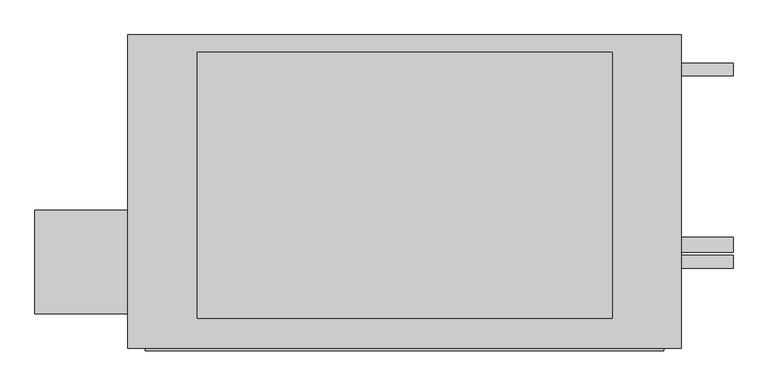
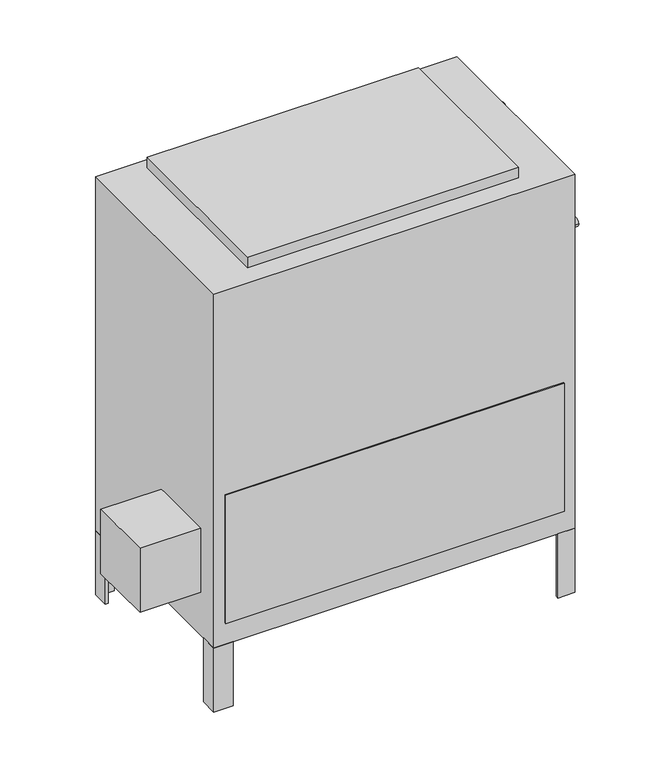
"""IFC4 building model written with IfcOpenShell, lengths in millimetres: proxy geometry, Concealed_High_Capacity_Vertical_Fan_Coil_Unit_-_42DDA_-_CARRIER_-_2-Pipe_Cool-EHeat_RH_2022 : Size 10 - 277v/60Hz/1Ph - 6 Row 7.0kW."""

import ifcopenshell
import ifcopenshell.guid

model = None  # the IFC model being written
_history = None  # IfcOwnerHistory: only IFC2X3 demands one
_inside = {}  # id of a spatial element -> (the spatial element, [elements in it])
_under = {}  # id of a project, library or spatial element -> (it, [spatial elements below it])
_declared = {}  # id of a project -> (the project, [libraries it declares])
_typed = {}  # id of a type object -> (the type object, [elements of that type])
_made_of = {}  # id of a material, layer set ... -> (it, [elements and type objects made of it])


def new_model(schema):
    """Start an empty IFC model of exactly this schema.

    Asked for "IFC4X3", IfcOpenShell would pick the latest addendum, in which some entities
    have other attributes; the version numbers below select the first issue.
    IFC2X3 requires an IfcOwnerHistory on every rooted entity: one is made here for all.
    """
    global model, _history
    if schema == "IFC4X3":
        model = ifcopenshell.file(schema_version=(4, 3, 0, 0))
    else:
        model = ifcopenshell.file(schema=schema)
    _inside.clear()
    _under.clear()
    _declared.clear()
    _typed.clear()
    _made_of.clear()
    _history = None
    if model.schema == "IFC2X3":
        org = make("IfcOrganization", Name="unknown")
        user = make(
            "IfcPersonAndOrganization",
            ThePerson=make("IfcPerson", FamilyName="unknown"),
            TheOrganization=org,
        )
        app = make(
            "IfcApplication",
            ApplicationDeveloper=org,
            Version="unknown",
            ApplicationFullName="unknown",
            ApplicationIdentifier="unknown",
        )
        _history = make(
            "IfcOwnerHistory",
            OwningUser=user,
            OwningApplication=app,
            ChangeAction="ADDED",
            CreationDate=0,
        )
    return model


def make(cls, **values):
    """One entity of the class cls with the attributes given. An attribute that is None is left unset."""
    return model.create_entity(
        cls, **{name: value for name, value in values.items() if value is not None}
    )


def rooted(cls, **values):
    """An entity with a GlobalId (a new one), such as an element, a storey or a relation."""
    return make(cls, GlobalId=ifcopenshell.guid.new(), OwnerHistory=_history, **values)


def si_unit(unit_type, name, prefix=None):
    """IfcSIUnit, for example si_unit("LENGTHUNIT", "METRE", prefix="MILLI")."""
    return make("IfcSIUnit", UnitType=unit_type, Prefix=prefix, Name=name)


def assignment(units):
    """IfcUnitAssignment: the units of a project."""
    return None if units is None else make("IfcUnitAssignment", Units=units)


def point(xyz):
    """IfcCartesianPoint."""
    return None if xyz is None else make("IfcCartesianPoint", Coordinates=xyz)


def direction(xyz):
    """IfcDirection."""
    return None if xyz is None else make("IfcDirection", DirectionRatios=xyz)


def frame(location, z_axis=None, x_axis=None):
    """IfcAxis2Placement3D, a coordinate frame: its origin and axes. An axis left out is left unset."""
    return make(
        "IfcAxis2Placement3D",
        Location=point(location),
        Axis=direction(z_axis),
        RefDirection=direction(x_axis),
    )


def frame_2d(location, x_axis=None):
    """IfcAxis2Placement2D, a coordinate frame in the plane: its origin and x axis."""
    return make(
        "IfcAxis2Placement2D", Location=point(location), RefDirection=direction(x_axis)
    )


def origin():
    """The frame at (0, 0, 0) with its axes left unset."""
    return frame((0.0, 0.0, 0.0))


def origin_with_axes():
    """The frame at (0, 0, 0) with the z axis (0, 0, 1) and the x axis (1, 0, 0) written out."""
    return frame((0.0, 0.0, 0.0), z_axis=(0.0, 0.0, 1.0), x_axis=(1.0, 0.0, 0.0))


def place(relative_to, where):
    """IfcLocalPlacement: puts the frame where relative to a parent placement (None: the world)."""
    return make(
        "IfcLocalPlacement", PlacementRelTo=relative_to, RelativePlacement=where
    )


def context(
    kind, dimensions, precision=None, world=None, true_north=None, identifier=None
):
    """IfcGeometricRepresentationContext, for example the 3D "Model" context."""
    return make(
        "IfcGeometricRepresentationContext",
        ContextIdentifier=identifier,
        ContextType=kind,
        CoordinateSpaceDimension=dimensions,
        Precision=precision,
        WorldCoordinateSystem=world,
        TrueNorth=true_north,
    )


def project(units=None, contexts=None):
    """IfcProject with its units and contexts."""
    return rooted(
        "IfcProject",
        Name="project",
        RepresentationContexts=contexts,
        UnitsInContext=assignment(units),
    )


def spatial(cls, under=None, at=None, **own):
    """A site, building, storey or space (cls), placed at a placement, below another one or the project."""
    s = rooted(cls, ObjectPlacement=at, **own)
    if under is not None:
        _under.setdefault(under.id(), (under, []))[1].append(s)
    return s


def polyline(points):
    """IfcPolyline through the points."""
    return make("IfcPolyline", Points=[point(p) for p in points])


def circle_curve(where, radius):
    """IfcCircle in the frame where."""
    return make("IfcCircle", Position=where, Radius=radius)


def trimmed(basis, trim1, trim2, sense, master):
    """IfcTrimmedCurve: the piece of a basis curve between two trims."""
    return make(
        "IfcTrimmedCurve",
        BasisCurve=basis,
        Trim1=trim1,
        Trim2=trim2,
        SenseAgreement=sense,
        MasterRepresentation=master,
    )


def segment(curve, same_sense, transition):
    """IfcCompositeCurveSegment."""
    return make(
        "IfcCompositeCurveSegment",
        Transition=transition,
        SameSense=same_sense,
        ParentCurve=curve,
    )


def composite_curve(segments, self_intersect=None):
    """IfcCompositeCurve: segments joined end to end."""
    return make("IfcCompositeCurve", Segments=segments, SelfIntersect=self_intersect)


def outline(outer, holes=None, kind="AREA"):
    """IfcArbitraryClosedProfileDef: a profile drawn as a closed curve; with holes, ...WithVoids."""
    if holes is None:
        return make("IfcArbitraryClosedProfileDef", ProfileType=kind, OuterCurve=outer)
    return make(
        "IfcArbitraryProfileDefWithVoids",
        ProfileType=kind,
        OuterCurve=outer,
        InnerCurves=holes,
    )


def extrude(swept, where, along, depth):
    """IfcExtrudedAreaSolid: the profile swept, set in the frame where, extruded along a direction by depth."""
    return make(
        "IfcExtrudedAreaSolid",
        SweptArea=swept,
        Position=where,
        ExtrudedDirection=direction(along),
        Depth=depth,
    )


def shape(context_of_items, identifier, shape_type, items):
    """IfcShapeRepresentation: the items that make up one representation, for example the "Body"."""
    return make(
        "IfcShapeRepresentation",
        ContextOfItems=context_of_items,
        RepresentationIdentifier=identifier,
        RepresentationType=shape_type,
        Items=items,
    )


def source(mapping_origin, context_of_items, identifier, shape_type, items):
    """IfcRepresentationMap: a shape defined once, which mapped items show again and again."""
    return make(
        "IfcRepresentationMap",
        MappingOrigin=mapping_origin,
        MappedRepresentation=shape(context_of_items, identifier, shape_type, items),
    )


def transform(
    local_origin,
    x_axis=None,
    y_axis=None,
    z_axis=None,
    scale=None,
    scale2=None,
    scale3=None,
    uniform=True,
):
    """IfcCartesianTransformationOperator3D, or its non-uniform kind. x_axis, y_axis, z_axis: its Axis1, 2, 3."""
    if uniform:
        return make(
            "IfcCartesianTransformationOperator3D",
            Axis1=direction(x_axis),
            Axis2=direction(y_axis),
            LocalOrigin=point(local_origin),
            Scale=scale,
            Axis3=direction(z_axis),
        )
    return make(
        "IfcCartesianTransformationOperator3DnonUniform",
        Axis1=direction(x_axis),
        Axis2=direction(y_axis),
        LocalOrigin=point(local_origin),
        Scale=scale,
        Axis3=direction(z_axis),
        Scale2=scale2,
        Scale3=scale3,
    )


def mapped(mapping_source, mapping_target):
    """IfcMappedItem: shows the shape of a source again, moved by a transform."""
    return make(
        "IfcMappedItem", MappingSource=mapping_source, MappingTarget=mapping_target
    )


def made_of(thing, what):
    """Note that an element or type object is made of a material, layer set ...; save() writes the relation."""
    if what is not None:
        _made_of.setdefault(what.id(), (what, []))[1].append(thing)
    return thing


def element(
    cls,
    number,
    at=None,
    inside=None,
    cuts=None,
    type_object=None,
    material=None,
    context=None,
    identifier="Body",
    shape_type=None,
    held_by="IfcProductDefinitionShape",
    body=None,
    shapes=None,
    **own,
):
    """One element of the class cls, such as IfcWall. Its Tag is "e" and its number.

    at: its placement. inside: the storey or other place that contains it. cuts: it is an
    opening in that element (IfcRelVoidsElement). A single representation is given by context,
    identifier, shape_type and body (its items); several are given by shapes. held_by: the class
    of the entity that holds the representations. save() writes the other relations.
    """
    e = rooted(cls, Tag="e%d" % number, ObjectPlacement=at, **own)
    if body is not None:
        shapes = [shape(context, identifier, shape_type, body)]
    if shapes is not None:
        e.Representation = make(held_by, Representations=shapes)
    if inside is not None:
        _inside.setdefault(inside.id(), (inside, []))[1].append(e)
    if cuts is not None:
        rooted(
            "IfcRelVoidsElement", RelatingBuildingElement=cuts, RelatedOpeningElement=e
        )
    if type_object is not None:
        _typed.setdefault(type_object.id(), (type_object, []))[1].append(e)
    return made_of(e, material)


def aggregate(whole, parts):
    """IfcRelAggregates: a whole, such as a stair, and the parts it consists of."""
    return rooted("IfcRelAggregates", RelatingObject=whole, RelatedObjects=parts)


def save(model, path):
    """Write the relations noted so far, then the file.

    IfcRelAggregates (storeys below a building ...), IfcRelContainedInSpatialStructure (elements
    in a storey), IfcRelDefinesByType, IfcRelAssociatesMaterial and IfcRelDeclares: one each for
    every whole, place, type object, material and project.
    """
    for whole, parts in _under.values():
        aggregate(whole, parts)
    for where, things in _inside.values():
        rooted(
            "IfcRelContainedInSpatialStructure",
            RelatedElements=things,
            RelatingStructure=where,
        )
    for kind, things in _typed.values():
        rooted("IfcRelDefinesByType", RelatedObjects=things, RelatingType=kind)
    for what, things in _made_of.values():
        rooted("IfcRelAssociatesMaterial", RelatedObjects=things, RelatingMaterial=what)
    for by, libraries in _declared.values():
        rooted("IfcRelDeclares", RelatingContext=by, RelatedDefinitions=libraries)
    model.write(path)


def mechanical_equipment_f7157ef1(model_context):
    return source(origin(), model_context, "Body", "SweptSolid", [
        extrude(outline(polyline([(-390.525, -417.5125), (-390.525, -265.1125), (-254.0, -265.1125), (-254.0, -417.5125), (-390.525, -417.5125)])), frame((0.0, 0.0, 101.6), z_axis=(0.0, 0.0, 1.0), x_axis=(1.0, 0.0, 0.0)), (0.0, 0.0, 1.0), 152.4),
        extrude(outline(polyline([(558.8, -46.0375), (552.45, -46.0375), (552.45, -14.2875), (520.7, -14.2875), (520.7, -7.9375), (558.8, -7.9375), (558.8, -46.0375)])), frame((0.0, 0.0, -152.4), z_axis=(0.0, 0.0, 1.0), x_axis=(1.0, 0.0, 0.0)), (0.0, 0.0, 1.0), 152.4),
        extrude(outline(polyline([(-215.9, -7.9375), (-215.9, -14.2875), (-247.65, -14.2875), (-247.65, -46.0375), (-254.0, -46.0375), (-254.0, -7.9375), (-215.9, -7.9375)])), frame((0.0, 0.0, -152.4), z_axis=(0.0, 0.0, 1.0), x_axis=(1.0, 0.0, 0.0)), (0.0, 0.0, 1.0), 152.4),
        extrude(outline(polyline([(520.7, -468.3125), (520.7, -461.9625), (552.45, -461.9625), (552.45, -430.2125), (558.8, -430.2125), (558.8, -468.3125), (520.7, -468.3125)])), frame((0.0, 0.0, -152.4), z_axis=(0.0, 0.0, 1.0), x_axis=(1.0, 0.0, 0.0)), (0.0, 0.0, 1.0), 152.4),
        extrude(outline(polyline([(-254.0, -428.1199163), (-247.65, -428.1199163), (-247.65, -461.9625), (-210.5318533, -461.9625), (-210.5318533, -468.3125), (-254.0, -468.3125), (-254.0, -428.1199163)])), frame((0.0, 0.0, -152.4), z_axis=(0.0, 0.0, 1.0), x_axis=(1.0, 0.0, 0.0)), (0.0, 0.0, 1.0), 152.4),
        extrude(outline(polyline([(457.2, -33.3375), (457.2, -423.8625), (-152.4, -423.8625), (-152.4, -33.3375), (457.2, -33.3375)])), frame((0.0, 0.0, 841.375), z_axis=(0.0, 0.0, 1.0), x_axis=(1.0, 0.0, 0.0)), (0.0, 0.0, 1.0), 25.4),
        extrude(outline(polyline([(533.4, -471.4875), (-228.6, -471.4875), (-228.6, -468.3125), (533.4, -468.3125), (533.4, -471.4875)])), frame((0.0, 0.0, 50.8), z_axis=(0.0, 0.0, 1.0), x_axis=(1.0, 0.0, 0.0)), (0.0, 0.0, 1.0), 304.8),
        extrude(outline(composite_curve([segment(trimmed(circle_curve(frame_2d((-58.7375, 727.075)), 9.525), [point((-49.2125, 727.075))], [point((-68.2625, 727.075))], False, "CARTESIAN"), True, "CONTINUOUS"), segment(trimmed(circle_curve(frame_2d((-58.7375, 727.075)), 9.525), [point((-68.2625, 727.075))], [point((-49.2125, 727.075))], False, "CARTESIAN"), True, "CONTINUOUS")], self_intersect=False)), frame((558.8, 0.0, 0.0), z_axis=(1.0, 0.0, 0.0), x_axis=(0.0, 1.0, 0.0)), (0.0, 0.0, 1.0), 76.2),
        extrude(outline(composite_curve([segment(trimmed(circle_curve(frame_2d((-341.3125, 625.475)), 9.525), [point((-331.7875, 625.475))], [point((-350.8375, 625.475))], False, "CARTESIAN"), True, "CONTINUOUS"), segment(trimmed(circle_curve(frame_2d((-341.3125, 625.475)), 9.525), [point((-350.8375, 625.475))], [point((-331.7875, 625.475))], False, "CARTESIAN"), True, "CONTINUOUS")], self_intersect=False)), frame((558.8, 0.0, 0.0), z_axis=(1.0, 0.0, 0.0), x_axis=(0.0, 1.0, 0.0)), (0.0, 0.0, 1.0), 76.2),
        extrude(outline(composite_curve([segment(trimmed(circle_curve(frame_2d((-315.9125, 536.575)), 11.1125), [point((-304.8, 536.575))], [point((-327.025, 536.575))], False, "CARTESIAN"), True, "CONTINUOUS"), segment(trimmed(circle_curve(frame_2d((-315.9125, 536.575)), 11.1125), [point((-327.025, 536.575))], [point((-304.8, 536.575))], False, "CARTESIAN"), True, "CONTINUOUS")], self_intersect=False)), frame((558.8, 0.0, 0.0), z_axis=(1.0, 0.0, 0.0), x_axis=(0.0, 1.0, 0.0)), (0.0, 0.0, 1.0), 76.2),
        extrude(outline(polyline([(558.8, -7.9375), (558.8, -468.3125), (-254.0, -468.3125), (-254.0, -7.9375), (558.8, -7.9375)])), origin_with_axes(), (0.0, 0.0, 1.0), 841.375),
    ])


if __name__ == "__main__":
    model = new_model("IFC4")
    model_context = context("Model", 3, world=origin())
    ifc_project = project(units=[si_unit("LENGTHUNIT", "METRE", prefix="MILLI")], contexts=[model_context])
    site = spatial("IfcSite", under=ifc_project)
    building = spatial("IfcBuilding", under=site)
    placement = place(None, origin())
    mechanical_equipment_shape = mechanical_equipment_f7157ef1(model_context)
    element("IfcBuildingElementProxy", 1, Name="Concealed_High_Capacity_Vertical_Fan_Coil_Unit_-_42DDA_-_CARRIER_-_2-Pipe_Cool-EHeat_RH_2022 : Size 10 - 277v/60Hz/1Ph - 6 Row 7.0kW", ObjectType="Concealed_High_Capacity_Vertical_Fan_Coil_Unit_-_42DDA_-_CARRIER_-_2-Pipe_Cool-EHeat_RH_2022 : Size 10 - 277v/60Hz/1Ph - 6 Row 7.0kW", at=placement, inside=building, context=model_context, shape_type="MappedRepresentation", body=[
        mapped(mechanical_equipment_shape, transform((0.0, 0.0, 0.0), x_axis=(1.0, 0.0, 0.0), y_axis=(0.0, 1.0, 0.0), z_axis=(0.0, 0.0, 1.0))),
    ])
    save(model, "model.ifc")
